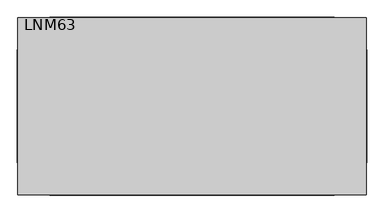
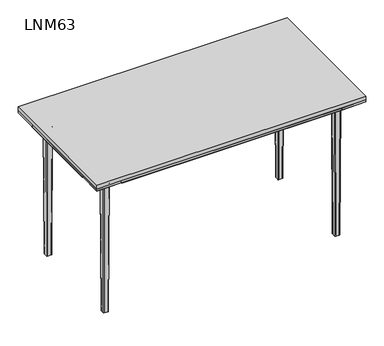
"""IFC4 building model written with IfcOpenShell, lengths in millimetres: furniture geometry, Contact Desks and Operative Twin Desks : LNM63."""

from ifc_helpers import new_model, si_unit, point, frame, origin, place, context, project, spatial, polyline, circle_curve, ellipse_curve, trimmed, outline, extrude, faceted_brep, source, transform, mapped, element, save
from ifc_brep_helpers import plane_surface, cylinder_surface, revolved_surface, extruded_surface, advanced_brep


def lnm63_42b72f23(model_context):
    return source(origin(), model_context, "Body", "SolidModel", [
        extrude(outline(polyline([(660.0, -215.0), (660.0, -335.0), (540.0, -335.0), (540.0, -215.0), (660.0, -215.0)])), frame((0.0, 0.0, 710.0), z_axis=(0.0, 0.0, 1.0), x_axis=(1.0, 0.0, 0.0)), (0.0, 0.0, 1.0), 10.0),
        extrude(outline(polyline([(660.0, 335.0), (660.0, 215.0), (540.0, 215.0), (540.0, 335.0), (660.0, 335.0)])), frame((0.0, 0.0, 710.0), z_axis=(0.0, 0.0, 1.0), x_axis=(1.0, 0.0, 0.0)), (0.0, 0.0, 1.0), 10.0),
        extrude(outline(polyline([(-540.0, 335.0), (-540.0, 215.0), (-660.0, 215.0), (-660.0, 335.0), (-540.0, 335.0)])), frame((0.0, 0.0, 710.0), z_axis=(0.0, 0.0, 1.0), x_axis=(1.0, 0.0, 0.0)), (0.0, 0.0, 1.0), 10.0),
        extrude(outline(polyline([(-660.0, 215.0), (-540.0, 215.0), (-540.0, -215.0), (-660.0, -215.0), (-660.0, 215.0)])), frame((0.0, 0.0, 710.0), z_axis=(0.0, 0.0, 1.0), x_axis=(1.0, 0.0, 0.0)), (0.0, 0.0, 1.0), 10.0),
        extrude(outline(polyline([(540.0, 215.0), (660.0, 215.0), (660.0, -215.0), (540.0, -215.0), (540.0, 215.0)])), frame((0.0, 0.0, 710.0), z_axis=(0.0, 0.0, 1.0), x_axis=(1.0, 0.0, 0.0)), (0.0, 0.0, 1.0), 10.0),
        extrude(outline(polyline([(540.0, -215.0), (540.0, -335.0), (-540.0, -335.0), (-540.0, -215.0), (540.0, -215.0)])), frame((0.0, 0.0, 710.0), z_axis=(0.0, 0.0, 1.0), x_axis=(1.0, 0.0, 0.0)), (0.0, 0.0, 1.0), 10.0),
        extrude(outline(polyline([(540.0, 335.0), (540.0, 215.0), (-540.0, 215.0), (-540.0, 335.0), (540.0, 335.0)])), frame((0.0, 0.0, 710.0), z_axis=(0.0, 0.0, 1.0), x_axis=(1.0, 0.0, 0.0)), (0.0, 0.0, 1.0), 10.0),
        extrude(outline(polyline([(710.0, 540.0), (675.0, 540.0), (675.0, 588.7129935), (710.0, 661.7129935), (710.0, 540.0)])), frame((0.0, -215.0, 0.0), z_axis=(0.0, 1.0, 0.0), x_axis=(0.0, 0.0, 1.0)), (0.0, 0.0, 1.0), 430.0),
        extrude(outline(polyline([(710.0, -540.0), (710.0, -661.7129935), (675.0, -588.7129935), (675.0, -540.0), (710.0, -540.0)])), frame((0.0, -215.0, 0.0), z_axis=(0.0, 1.0, 0.0), x_axis=(0.0, 0.0, 1.0)), (0.0, 0.0, 1.0), 430.0),
        extrude(outline(polyline([(215.0, 710.0), (336.7129935, 710.0), (263.7129935, 675.0), (215.0, 675.0), (215.0, 710.0)])), frame((-540.0, 0.0, 0.0), z_axis=(1.0, 0.0, 0.0), x_axis=(0.0, 1.0, 0.0)), (0.0, 0.0, 1.0), 1080.0),
        extrude(outline(polyline([(-215.0, 710.0), (-215.0, 675.0), (-263.7129935, 675.0), (-336.7129935, 710.0), (-215.0, 710.0)])), frame((-540.0, 0.0, 0.0), z_axis=(1.0, 0.0, 0.0), x_axis=(0.0, 1.0, 0.0)), (0.0, 0.0, 1.0), 1080.0),
        faceted_brep([(-540.0, 215.0, 710.0), (-540.0, 335.0, 710.0), (-660.0, 335.0, 710.0), (-660.0, 215.0, 710.0), (-540.0, 215.0, 675.0), (-587.0, 215.0, 675.0), (-587.0, 262.0, 675.0), (-540.0, 262.0, 675.0)], [[[0, 1, 2, 3]], [[4, 5, 6, 7]], [[1, 0, 4, 7]], [[0, 3, 5, 4]], [[6, 2, 1, 7]], [[2, 6, 5, 3]]]),
        advanced_brep(
        [(-547.0, 230.0, 675.0), (-547.0, 254.0, 675.0), (-555.0, 262.0, 675.0), (-579.0, 262.0, 675.0), (-587.0, 254.0, 675.0), (-587.0, 230.0, 675.0), (-579.0, 222.0, 675.0), (-555.0, 222.0, 675.0), (-579.0, 227.0, 665.0), (-582.0, 230.0, 665.0), (-582.0, 254.0, 665.0), (-579.0, 257.0, 665.0), (-555.0, 257.0, 665.0), (-552.0, 254.0, 665.0), (-552.0, 230.0, 665.0), (-555.0, 227.0, 665.0), (-547.0, 230.0, 672.0), (-547.0, 254.0, 672.0), (-555.0, 262.0, 672.0), (-579.0, 262.0, 672.0), (-587.0, 254.0, 672.0), (-587.0, 230.0, 672.0), (-579.0, 222.0, 672.0), (-555.0, 222.0, 672.0)],
        [
            (0, 1),
            (1, 2, circle_curve(frame((-555.0, 254.0, 675.0), z_axis=(0.0, 0.0, 1.0), x_axis=(0.0, -1.0000000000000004, 0.0)), 8.0)),
            (2, 3),
            (3, 4, circle_curve(frame((-579.0, 254.0, 675.0), z_axis=(0.0, 0.0, 1.0), x_axis=(0.0, -1.0000000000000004, 0.0)), 8.0)),
            (4, 5),
            (5, 6, circle_curve(frame((-579.0, 230.0, 675.0), z_axis=(0.0, 0.0, 1.0), x_axis=(0.0, -1.0000000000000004, 0.0)), 8.0)),
            (6, 7),
            (7, 0, circle_curve(frame((-555.0, 230.0, 675.0), z_axis=(0.0, 0.0, 1.0), x_axis=(0.0, -1.0000000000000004, 0.0)), 8.0)),
            (8, 9, circle_curve(frame((-579.0, 230.0, 665.0), z_axis=(0.0, 0.0, -1.0), x_axis=(0.0, -1.0000000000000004, 0.0)), 3.0)),
            (9, 10),
            (10, 11, circle_curve(frame((-579.0, 254.0, 665.0), z_axis=(0.0, 0.0, -1.0), x_axis=(-1.0000000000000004, 0.0, 0.0)), 3.0)),
            (11, 12),
            (12, 13, circle_curve(frame((-555.0, 254.0, 665.0), z_axis=(0.0, 0.0, -1.0), x_axis=(0.0, 1.0000000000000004, 0.0)), 3.0)),
            (13, 14),
            (14, 15, circle_curve(frame((-555.0, 230.0, 665.0), z_axis=(0.0, 0.0, -1.0), x_axis=(1.0000000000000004, 0.0, 0.0)), 3.0)),
            (15, 8),
            (0, 16),
            (16, 17),
            (17, 1),
            (17, 18, circle_curve(frame((-555.0, 254.0, 672.0), z_axis=(0.0, 0.0, 1.0), x_axis=(0.0, -1.0000000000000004, 0.0)), 8.0)),
            (18, 2),
            (18, 19),
            (19, 3),
            (19, 20, circle_curve(frame((-579.0, 254.0, 672.0), z_axis=(0.0, 0.0, 1.0), x_axis=(0.0, -1.0000000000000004, 0.0)), 8.0)),
            (20, 4),
            (20, 21),
            (21, 5),
            (21, 22, circle_curve(frame((-579.0, 230.0, 672.0), z_axis=(0.0, 0.0, 1.0), x_axis=(0.0, -1.0000000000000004, 0.0)), 8.0)),
            (22, 6),
            (22, 23),
            (23, 7),
            (23, 16, circle_curve(frame((-555.0, 230.0, 672.0), z_axis=(0.0, 0.0, 1.0), x_axis=(0.0, -1.0000000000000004, 0.0)), 8.0)),
            (21, 9, circle_curve(frame((-590.9600528, 230.0, 663.8856766), z_axis=(0.0, 1.0000000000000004, 0.0), x_axis=(-1.0000000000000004, 0.0, 0.0)), 9.0290787)),
            (8, 22, circle_curve(frame((-579.0, 218.0399472, 663.8856766), z_axis=(1.0000000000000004, 0.0, 0.0), x_axis=(0.0, -1.0000000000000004, 0.0)), 9.0290787)),
            (20, 10, circle_curve(frame((-590.9600528, 254.0, 663.8856766), z_axis=(0.0, 1.0, 0.0), x_axis=(-1.0000000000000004, 0.0, 0.0)), 9.0290787)),
            (19, 11, circle_curve(frame((-579.0, 265.9600528, 663.8856766), z_axis=(1.0000000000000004, 0.0, 0.0), x_axis=(0.0, 1.0000000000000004, 0.0)), 9.0290787)),
            (18, 12, circle_curve(frame((-555.0, 265.9600528, 663.8856766), z_axis=(1.0, 0.0, 0.0), x_axis=(0.0, 1.0000000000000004, 0.0)), 9.0290787)),
            (17, 13, circle_curve(frame((-543.0399472, 254.0, 663.8856766), z_axis=(0.0, -1.0000000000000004, 0.0), x_axis=(1.0000000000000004, 0.0, 0.0)), 9.0290787)),
            (16, 14, circle_curve(frame((-543.0399472, 230.0, 663.8856766), z_axis=(0.0, -1.0, 0.0), x_axis=(1.0000000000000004, 0.0, 0.0)), 9.0290787)),
            (23, 15, circle_curve(frame((-555.0, 218.0399472, 663.8856766), z_axis=(-1.0000000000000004, 0.0, 0.0), x_axis=(0.0, -1.0000000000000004, 0.0)), 9.0290787)),
        ],
        [
            plane_surface(frame((-547.0, 915.663284, 675.0), z_axis=(0.0, 0.0, 1.0), x_axis=(0.0, 1.0, 0.0))),
            plane_surface(frame((-547.0, 915.663284, 665.0), z_axis=(0.0, 0.0, -1.0), x_axis=(0.0, -1.0, 0.0))),
            plane_surface(frame((-547.0, 230.0, 675.0), z_axis=(1.0, 0.0, 0.0), x_axis=(0.0, 0.0, -1.0))),
            cylinder_surface(frame((-555.0, 254.0, 665.0), z_axis=(0.0, 0.0, 1.0), x_axis=(0.0, -1.0000000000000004, 0.0)), 8.0),
            plane_surface(frame((-555.0, 262.0, 675.0), z_axis=(0.0, 1.0, 0.0), x_axis=(0.0, 0.0, -1.0))),
            cylinder_surface(frame((-579.0, 254.0, 665.0), z_axis=(0.0, 0.0, 1.0), x_axis=(0.0, -1.0000000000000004, 0.0)), 8.0),
            plane_surface(frame((-587.0, 254.0, 675.0), z_axis=(-1.0, 0.0, 0.0), x_axis=(0.0, 0.0, -1.0))),
            cylinder_surface(frame((-579.0, 230.0, 665.0), z_axis=(0.0, 0.0, 1.0), x_axis=(0.0, -1.0000000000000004, 0.0)), 8.0),
            plane_surface(frame((-579.0, 222.0, 675.0), z_axis=(0.0, -1.0, 0.0), x_axis=(0.0, 0.0, -1.0))),
            cylinder_surface(frame((-555.0, 230.0, 665.0), z_axis=(0.0, 0.0, 1.0), x_axis=(0.0, -1.0000000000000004, 0.0)), 8.0),
            revolved_surface(trimmed(ellipse_curve(frame((-579.0, 218.0399472, 663.8856766), z_axis=(-1.0000000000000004, 0.0, 0.0), x_axis=(0.0, -1.0000000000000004, 0.0)), 9.0290787, 9.0290787), [point((-579.0, 222.0, 672.0))], [point((-579.0, 227.0, 665.0))], True, "CARTESIAN"), (-579.0, 230.0, 0.0), (0.0, 0.0, -1.0)),
            revolved_surface(polyline([(-599.9891315, 230.0, 663.8856766), (-599.9891315, 254.00000000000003, 663.8856766)]), (-590.9600528, 230.0, 663.8856766), (0.0, -1.0000000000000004, 0.0)),
            revolved_surface(trimmed(ellipse_curve(frame((-590.9600528, 254.0, 663.8856766), z_axis=(0.0, 1.0000000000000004, 0.0), x_axis=(-1.0000000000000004, 0.0, 0.0)), 9.0290787, 9.0290787), [point((-587.0, 254.0, 672.0))], [point((-582.0, 254.0, 665.0))], True, "CARTESIAN"), (-579.0, 254.0, 0.0), (0.0, 0.0, -1.0)),
            revolved_surface(polyline([(-579.0, 274.98913150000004, 663.8856766), (-555.0, 274.98913150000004, 663.8856766)]), (-579.0, 265.9600528, 663.8856766), (-1.0000000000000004, 0.0, 0.0)),
            revolved_surface(trimmed(ellipse_curve(frame((-555.0, 265.9600528, 663.8856766), z_axis=(1.0000000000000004, 0.0, 0.0), x_axis=(0.0, 1.0000000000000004, 0.0)), 9.0290787, 9.0290787), [point((-555.0, 262.0, 672.0))], [point((-555.0, 257.0, 665.0))], True, "CARTESIAN"), (-555.0, 254.0, 0.0), (0.0, 0.0, -1.0)),
            revolved_surface(polyline([(-534.0108685, 254.0, 663.8856766), (-534.0108685, 229.99999999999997, 663.8856766)]), (-543.0399472, 254.0, 663.8856766), (0.0, 1.0000000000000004, 0.0)),
            revolved_surface(trimmed(ellipse_curve(frame((-543.0399472, 230.0, 663.8856766), z_axis=(0.0, -1.0000000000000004, 0.0), x_axis=(1.0000000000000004, 0.0, 0.0)), 9.0290787, 9.0290787), [point((-547.0, 230.0, 672.0))], [point((-552.0, 230.0, 665.0))], True, "CARTESIAN"), (-555.0, 230.0, 0.0), (0.0, 0.0, -1.0)),
            revolved_surface(polyline([(-555.0, 209.0108685, 663.8856766), (-579.0, 209.0108685, 663.8856766)]), (-555.0, 218.0399472, 663.8856766), (1.0000000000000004, 0.0, 0.0)),
        ],
        [
            (0, [[1, 2, 3, 4, 5, 6, 7, 8]]),
            (1, [[9, 10, 11, 12, 13, 14, 15, 16]]),
            (2, [[-1, 17, 18, 19]]),
            (3, [[-2, -19, 20, 21]]),
            (4, [[-3, -21, 22, 23]]),
            (5, [[-4, -23, 24, 25]]),
            (6, [[-5, -25, 26, 27]]),
            (7, [[-6, -27, 28, 29]]),
            (8, [[-7, -29, 30, 31]]),
            (9, [[-8, -31, 32, -17]]),
            (10, [[33, -9, 34, -28]]),
            (11, [[-33, -26, 35, -10]]),
            (12, [[-35, -24, 36, -11]]),
            (13, [[-36, -22, 37, -12]]),
            (14, [[-37, -20, 38, -13]]),
            (15, [[-38, -18, 39, -14]]),
            (16, [[-39, -32, 40, -15]]),
            (17, [[-34, -16, -40, -30]]),
        ],
    ),
        advanced_brep(
        [(-579.0, 257.0, 665.0), (-582.0, 254.0, 665.0), (-582.0, 230.0, 665.0), (-579.0, 227.0, 665.0), (-555.0, 227.0, 665.0), (-552.0, 230.0, 665.0), (-552.0, 254.0, 665.0), (-555.0, 257.0, 665.0), (-576.0, 254.0, 0.0), (-558.0, 254.0, 0.0), (-555.0, 251.0, 0.0), (-555.0, 233.0, 0.0), (-558.0, 230.0, 0.0), (-576.0, 230.0, 0.0), (-579.0, 233.0, 0.0), (-579.0, 251.0, 0.0)],
        [
            (0, 1, circle_curve(frame((-579.0, 254.0, 665.0), z_axis=(0.0, 0.0, 1.0), x_axis=(0.0, -1.0, 0.0)), 3.0)),
            (1, 2),
            (2, 3, circle_curve(frame((-579.0, 230.0, 665.0), z_axis=(0.0, 0.0, 1.0), x_axis=(0.0, -1.0, 0.0)), 3.0)),
            (3, 4),
            (4, 5, circle_curve(frame((-555.0, 230.0, 665.0), z_axis=(0.0, 0.0, 1.0), x_axis=(0.0, -1.0, 0.0)), 3.0)),
            (5, 6),
            (6, 7, circle_curve(frame((-555.0, 254.0, 665.0), z_axis=(0.0, 0.0, 1.0), x_axis=(0.0, -1.0, 0.0)), 3.0)),
            (7, 0),
            (8, 9),
            (9, 10, circle_curve(frame((-558.0, 251.0, 0.0), z_axis=(0.0, 0.0, -1.0), x_axis=(0.0, -1.0, 0.0)), 3.0)),
            (10, 11),
            (11, 12, circle_curve(frame((-558.0, 233.0, 0.0), z_axis=(0.0, 0.0, -1.0), x_axis=(0.0, -1.0, 0.0)), 3.0)),
            (12, 13),
            (13, 14, circle_curve(frame((-576.0, 233.0, 0.0), z_axis=(0.0, 0.0, -1.0), x_axis=(0.0, -1.0, 0.0)), 3.0)),
            (14, 15),
            (15, 8, circle_curve(frame((-576.0, 251.0, 0.0), z_axis=(0.0, 0.0, -1.0), x_axis=(0.0, -1.0, 0.0)), 3.0)),
            (15, 1),
            (0, 8),
            (14, 2),
            (13, 3),
            (12, 4),
            (11, 5),
            (10, 6),
            (9, 7),
        ],
        [
            plane_surface(frame((-567.0, 242.0, 665.0), z_axis=(0.0, 0.0, 1.0), x_axis=(0.0, 1.0, 0.0))),
            plane_surface(frame((-567.0, 242.0, 0.0), z_axis=(0.0, 0.0, -1.0), x_axis=(0.0, 1.0, 0.0))),
            extruded_surface(trimmed(circle_curve(frame((-576.0, 251.0, 0.0), z_axis=(0.0, 0.0, 1.0), x_axis=(0.0, -1.0, 0.0)), 3.0), [point((-576.0, 254.0, 0.0))], [point((-579.0, 251.0, 0.0))], True, "CARTESIAN"), (-3.0, 3.0, 665.0), 665.0135336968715),
            plane_surface(frame((-579.0, 242.0, 0.0), z_axis=(-0.9999898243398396, 0.0, -0.004511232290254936), x_axis=(0.0, -1.0, 0.0))),
            extruded_surface(trimmed(circle_curve(frame((-576.0, 233.0, 0.0), z_axis=(0.0, 0.0, 1.0), x_axis=(0.0, -1.0, 0.0)), 3.0), [point((-579.0, 233.0, 0.0))], [point((-576.0, 230.0, 0.0))], True, "CARTESIAN"), (-3.0, -3.0, 665.0), 665.0135336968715),
            plane_surface(frame((-567.0, 230.0, 0.0), z_axis=(0.0, -0.9999898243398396, -0.004511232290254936), x_axis=(1.0, 0.0, 0.0))),
            extruded_surface(trimmed(circle_curve(frame((-558.0, 233.0, 0.0), z_axis=(0.0, 0.0, 1.0), x_axis=(0.0, -1.0, 0.0)), 3.0), [point((-558.0, 230.0, 0.0))], [point((-555.0, 233.0, 0.0))], True, "CARTESIAN"), (3.0, -3.0, 665.0), 665.0135336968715),
            plane_surface(frame((-555.0, 242.0, 0.0), z_axis=(0.9999898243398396, 0.0, -0.004511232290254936), x_axis=(0.0, 1.0, 0.0))),
            extruded_surface(trimmed(circle_curve(frame((-558.0, 251.0, 0.0), z_axis=(0.0, 0.0, 1.0), x_axis=(0.0, -1.0, 0.0)), 3.0), [point((-555.0, 251.0, 0.0))], [point((-558.0, 254.0, 0.0))], True, "CARTESIAN"), (3.0, 3.0, 665.0), 665.0135336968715),
            plane_surface(frame((-567.0, 254.0, 0.0), z_axis=(0.0, 0.9999898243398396, -0.004511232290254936), x_axis=(-1.0, 0.0, 0.0))),
        ],
        [
            (0, [[1, 2, 3, 4, 5, 6, 7, 8]]),
            (1, [[9, 10, 11, 12, 13, 14, 15, 16]]),
            (2, [[-16, 17, -1, 18]]),
            (3, [[-15, 19, -2, -17]]),
            (4, [[-14, 20, -3, -19]]),
            (5, [[-13, 21, -4, -20]]),
            (6, [[-12, 22, -5, -21]]),
            (7, [[-11, 23, -6, -22]]),
            (8, [[-10, 24, -7, -23]]),
            (9, [[-9, -18, -8, -24]]),
        ],
    ),
        faceted_brep([(540.0, -215.0, 710.0), (540.0, -335.0, 710.0), (660.0, -335.0, 710.0), (660.0, -215.0, 710.0), (540.0, -215.0, 675.0), (587.0, -215.0, 675.0), (587.0, -262.0, 675.0), (540.0, -262.0, 675.0)], [[[0, 1, 2, 3]], [[4, 5, 6, 7]], [[1, 0, 4, 7]], [[0, 3, 5, 4]], [[6, 2, 1, 7]], [[2, 6, 5, 3]]]),
        advanced_brep(
        [(547.0, -230.0, 675.0), (547.0, -254.0, 675.0), (555.0, -262.0, 675.0), (579.0, -262.0, 675.0), (587.0, -254.0, 675.0), (587.0, -230.0, 675.0), (579.0, -222.0, 675.0), (555.0, -222.0, 675.0), (579.0, -227.0, 665.0), (582.0, -230.0, 665.0), (582.0, -254.0, 665.0), (579.0, -257.0, 665.0), (555.0, -257.0, 665.0), (552.0, -254.0, 665.0), (552.0, -230.0, 665.0), (555.0, -227.0, 665.0), (547.0, -230.0, 672.0), (547.0, -254.0, 672.0), (555.0, -262.0, 672.0), (579.0, -262.0, 672.0), (587.0, -254.0, 672.0), (587.0, -230.0, 672.0), (579.0, -222.0, 672.0), (555.0, -222.0, 672.0)],
        [
            (0, 1),
            (1, 2, circle_curve(frame((555.0, -254.0, 675.0), z_axis=(0.0, 0.0, 1.0), x_axis=(0.0, 1.0000000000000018, 0.0)), 8.0)),
            (2, 3),
            (3, 4, circle_curve(frame((579.0, -254.0, 675.0), z_axis=(0.0, 0.0, 1.0), x_axis=(0.0, 1.0000000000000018, 0.0)), 8.0)),
            (4, 5),
            (5, 6, circle_curve(frame((579.0, -230.0, 675.0), z_axis=(0.0, 0.0, 1.0), x_axis=(0.0, 1.0000000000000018, 0.0)), 8.0)),
            (6, 7),
            (7, 0, circle_curve(frame((555.0, -230.0, 675.0), z_axis=(0.0, 0.0, 1.0), x_axis=(0.0, 1.0000000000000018, 0.0)), 8.0)),
            (8, 9, circle_curve(frame((579.0, -230.0, 665.0), z_axis=(0.0, 0.0, -1.0), x_axis=(0.0, 1.0000000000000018, 0.0)), 3.0)),
            (9, 10),
            (10, 11, circle_curve(frame((579.0, -254.0, 665.0), z_axis=(0.0, 0.0, -1.0), x_axis=(1.0000000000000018, 0.0, 0.0)), 3.0)),
            (11, 12),
            (12, 13, circle_curve(frame((555.0, -254.0, 665.0), z_axis=(0.0, 0.0, -1.0), x_axis=(0.0, -1.0000000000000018, 0.0)), 3.0)),
            (13, 14),
            (14, 15, circle_curve(frame((555.0, -230.0, 665.0), z_axis=(0.0, 0.0, -1.0), x_axis=(-1.0000000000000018, 0.0, 0.0)), 3.0)),
            (15, 8),
            (0, 16),
            (16, 17),
            (17, 1),
            (17, 18, circle_curve(frame((555.0, -254.0, 672.0), z_axis=(0.0, 0.0, 1.0), x_axis=(0.0, 1.0000000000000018, 0.0)), 8.0)),
            (18, 2),
            (18, 19),
            (19, 3),
            (19, 20, circle_curve(frame((579.0, -254.0, 672.0), z_axis=(0.0, 0.0, 1.0), x_axis=(0.0, 1.0000000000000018, 0.0)), 8.0)),
            (20, 4),
            (20, 21),
            (21, 5),
            (21, 22, circle_curve(frame((579.0, -230.0, 672.0), z_axis=(0.0, 0.0, 1.0), x_axis=(0.0, 1.0000000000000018, 0.0)), 8.0)),
            (22, 6),
            (22, 23),
            (23, 7),
            (23, 16, circle_curve(frame((555.0, -230.0, 672.0), z_axis=(0.0, 0.0, 1.0), x_axis=(0.0, 1.0000000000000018, 0.0)), 8.0)),
            (21, 9, circle_curve(frame((590.9600528, -230.0, 663.8856766), z_axis=(0.0, -1.0000000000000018, 0.0), x_axis=(1.0000000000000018, 0.0, 0.0)), 9.0290787)),
            (8, 22, circle_curve(frame((579.0, -218.0399472, 663.8856766), z_axis=(-1.0000000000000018, 0.0, 0.0), x_axis=(0.0, 1.0000000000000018, 0.0)), 9.0290787)),
            (20, 10, circle_curve(frame((590.9600528, -254.0, 663.8856766), z_axis=(0.0, -1.0, 0.0), x_axis=(1.0000000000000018, 0.0, 0.0)), 9.0290787)),
            (19, 11, circle_curve(frame((579.0, -265.9600528, 663.8856766), z_axis=(-1.0000000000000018, 0.0, 0.0), x_axis=(0.0, -1.0000000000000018, 0.0)), 9.0290787)),
            (18, 12, circle_curve(frame((555.0, -265.9600528, 663.8856766), z_axis=(-1.0, 0.0, 0.0), x_axis=(0.0, -1.0000000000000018, 0.0)), 9.0290787)),
            (17, 13, circle_curve(frame((543.0399472, -254.0, 663.8856766), z_axis=(0.0, 1.0000000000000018, 0.0), x_axis=(-1.0000000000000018, 0.0, 0.0)), 9.0290787)),
            (16, 14, circle_curve(frame((543.0399472, -230.0, 663.8856766), z_axis=(0.0, 1.0, 0.0), x_axis=(-1.0000000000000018, 0.0, 0.0)), 9.0290787)),
            (23, 15, circle_curve(frame((555.0, -218.0399472, 663.8856766), z_axis=(1.0000000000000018, 0.0, 0.0), x_axis=(0.0, 1.0000000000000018, 0.0)), 9.0290787)),
        ],
        [
            plane_surface(frame((547.0, -915.663284, 675.0), z_axis=(0.0, 0.0, 1.0), x_axis=(0.0, -1.0, 0.0))),
            plane_surface(frame((547.0, -915.663284, 665.0), z_axis=(0.0, 0.0, -1.0), x_axis=(0.0, 1.0, 0.0))),
            plane_surface(frame((547.0, -230.0, 675.0), z_axis=(-1.0, 0.0, 0.0), x_axis=(0.0, 0.0, -1.0))),
            cylinder_surface(frame((555.0, -254.0, 665.0), z_axis=(0.0, 0.0, 1.0), x_axis=(0.0, 1.0000000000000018, 0.0)), 8.0),
            plane_surface(frame((555.0, -262.0, 675.0), z_axis=(0.0, -1.0, 0.0), x_axis=(0.0, 0.0, -1.0))),
            cylinder_surface(frame((579.0, -254.0, 665.0), z_axis=(0.0, 0.0, 1.0), x_axis=(0.0, 1.0000000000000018, 0.0)), 8.0),
            plane_surface(frame((587.0, -254.0, 675.0), z_axis=(1.0, 0.0, 0.0), x_axis=(0.0, 0.0, -1.0))),
            cylinder_surface(frame((579.0, -230.0, 665.0), z_axis=(0.0, 0.0, 1.0), x_axis=(0.0, 1.0000000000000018, 0.0)), 8.0),
            plane_surface(frame((579.0, -222.0, 675.0), z_axis=(0.0, 1.0, 0.0), x_axis=(0.0, 0.0, -1.0))),
            cylinder_surface(frame((555.0, -230.0, 665.0), z_axis=(0.0, 0.0, 1.0), x_axis=(0.0, 1.0000000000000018, 0.0)), 8.0),
            revolved_surface(trimmed(ellipse_curve(frame((579.0, -218.0399472, 663.8856766), z_axis=(1.0000000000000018, 0.0, 0.0), x_axis=(0.0, 1.0000000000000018, 0.0)), 9.0290787, 9.0290787), [point((579.0, -222.0, 672.0))], [point((579.0, -227.0, 665.0))], True, "CARTESIAN"), (579.0, -230.0, 0.0), (0.0, 0.0, -1.0)),
            revolved_surface(polyline([(599.9891315, -230.0, 663.8856766), (599.9891315, -254.00000000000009, 663.8856766)]), (590.9600528, -230.0, 663.8856766), (0.0, 1.0000000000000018, 0.0)),
            revolved_surface(trimmed(ellipse_curve(frame((590.9600528, -254.0, 663.8856766), z_axis=(0.0, -1.0000000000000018, 0.0), x_axis=(1.0000000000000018, 0.0, 0.0)), 9.0290787, 9.0290787), [point((587.0, -254.0, 672.0))], [point((582.0, -254.0, 665.0))], True, "CARTESIAN"), (579.0, -254.0, 0.0), (0.0, 0.0, -1.0)),
            revolved_surface(polyline([(579.0, -274.98913150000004, 663.8856766), (554.9999999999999, -274.98913150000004, 663.8856766)]), (579.0, -265.9600528, 663.8856766), (1.0000000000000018, 0.0, 0.0)),
            revolved_surface(trimmed(ellipse_curve(frame((555.0, -265.9600528, 663.8856766), z_axis=(-1.0000000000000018, 0.0, 0.0), x_axis=(0.0, -1.0000000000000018, 0.0)), 9.0290787, 9.0290787), [point((555.0, -262.0, 672.0))], [point((555.0, -257.0, 665.0))], True, "CARTESIAN"), (555.0, -254.0, 0.0), (0.0, 0.0, -1.0)),
            revolved_surface(polyline([(534.0108685, -254.0, 663.8856766), (534.0108685, -229.99999999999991, 663.8856766)]), (543.0399472, -254.0, 663.8856766), (0.0, -1.0000000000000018, 0.0)),
            revolved_surface(trimmed(ellipse_curve(frame((543.0399472, -230.0, 663.8856766), z_axis=(0.0, 1.0000000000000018, 0.0), x_axis=(-1.0000000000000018, 0.0, 0.0)), 9.0290787, 9.0290787), [point((547.0, -230.0, 672.0))], [point((552.0, -230.0, 665.0))], True, "CARTESIAN"), (555.0, -230.0, 0.0), (0.0, 0.0, -1.0)),
            revolved_surface(polyline([(555.0, -209.0108685, 663.8856766), (579.0000000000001, -209.0108685, 663.8856766)]), (555.0, -218.0399472, 663.8856766), (-1.0000000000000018, 0.0, 0.0)),
        ],
        [
            (0, [[1, 2, 3, 4, 5, 6, 7, 8]]),
            (1, [[9, 10, 11, 12, 13, 14, 15, 16]]),
            (2, [[-1, 17, 18, 19]]),
            (3, [[-2, -19, 20, 21]]),
            (4, [[-3, -21, 22, 23]]),
            (5, [[-4, -23, 24, 25]]),
            (6, [[-5, -25, 26, 27]]),
            (7, [[-6, -27, 28, 29]]),
            (8, [[-7, -29, 30, 31]]),
            (9, [[-8, -31, 32, -17]]),
            (10, [[33, -9, 34, -28]]),
            (11, [[-33, -26, 35, -10]]),
            (12, [[-35, -24, 36, -11]]),
            (13, [[-36, -22, 37, -12]]),
            (14, [[-37, -20, 38, -13]]),
            (15, [[-38, -18, 39, -14]]),
            (16, [[-39, -32, 40, -15]]),
            (17, [[-34, -16, -40, -30]]),
        ],
    ),
        advanced_brep(
        [(579.0, -257.0, 665.0), (582.0, -254.0, 665.0), (582.0, -230.0, 665.0), (579.0, -227.0, 665.0), (555.0, -227.0, 665.0), (552.0, -230.0, 665.0), (552.0, -254.0, 665.0), (555.0, -257.0, 665.0), (576.0, -254.0, 0.0), (558.0, -254.0, 0.0), (555.0, -251.0, 0.0), (555.0, -233.0, 0.0), (558.0, -230.0, 0.0), (576.0, -230.0, 0.0), (579.0, -233.0, 0.0), (579.0, -251.0, 0.0)],
        [
            (0, 1, circle_curve(frame((579.0, -254.0, 665.0), z_axis=(0.0, 0.0, 1.0), x_axis=(0.0, 1.0, 0.0)), 3.0)),
            (1, 2),
            (2, 3, circle_curve(frame((579.0, -230.0, 665.0), z_axis=(0.0, 0.0, 1.0), x_axis=(0.0, 1.0, 0.0)), 3.0)),
            (3, 4),
            (4, 5, circle_curve(frame((555.0, -230.0, 665.0), z_axis=(0.0, 0.0, 1.0), x_axis=(0.0, 1.0, 0.0)), 3.0)),
            (5, 6),
            (6, 7, circle_curve(frame((555.0, -254.0, 665.0), z_axis=(0.0, 0.0, 1.0), x_axis=(0.0, 1.0, 0.0)), 3.0)),
            (7, 0),
            (8, 9),
            (9, 10, circle_curve(frame((558.0, -251.0, 0.0), z_axis=(0.0, 0.0, -1.0), x_axis=(0.0, 1.0, 0.0)), 3.0)),
            (10, 11),
            (11, 12, circle_curve(frame((558.0, -233.0, 0.0), z_axis=(0.0, 0.0, -1.0), x_axis=(0.0, 1.0, 0.0)), 3.0)),
            (12, 13),
            (13, 14, circle_curve(frame((576.0, -233.0, 0.0), z_axis=(0.0, 0.0, -1.0), x_axis=(0.0, 1.0, 0.0)), 3.0)),
            (14, 15),
            (15, 8, circle_curve(frame((576.0, -251.0, 0.0), z_axis=(0.0, 0.0, -1.0), x_axis=(0.0, 1.0, 0.0)), 3.0)),
            (15, 1),
            (0, 8),
            (14, 2),
            (13, 3),
            (12, 4),
            (11, 5),
            (10, 6),
            (9, 7),
        ],
        [
            plane_surface(frame((567.0, -242.0, 665.0), z_axis=(0.0, 0.0, 1.0), x_axis=(0.0, -1.0, 0.0))),
            plane_surface(frame((567.0, -242.0, 0.0), z_axis=(0.0, 0.0, -1.0), x_axis=(0.0, -1.0, 0.0))),
            extruded_surface(trimmed(circle_curve(frame((576.0, -251.0, 0.0), z_axis=(0.0, 0.0, 1.0), x_axis=(0.0, 1.0, 0.0)), 3.0), [point((576.0, -254.0, 0.0))], [point((579.0, -251.0, 0.0))], True, "CARTESIAN"), (3.0, -3.0, 665.0), 665.0135336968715),
            plane_surface(frame((579.0, -242.0, 0.0), z_axis=(0.9999898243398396, 0.0, -0.004511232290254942), x_axis=(0.0, 1.0, 0.0))),
            extruded_surface(trimmed(circle_curve(frame((576.0, -233.0, 0.0), z_axis=(0.0, 0.0, 1.0), x_axis=(0.0, 1.0, 0.0)), 3.0), [point((579.0, -233.0, 0.0))], [point((576.0, -230.0, 0.0))], True, "CARTESIAN"), (3.0, 3.0, 665.0), 665.0135336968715),
            plane_surface(frame((567.0, -230.0, 0.0), z_axis=(0.0, 0.9999898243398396, -0.004511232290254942), x_axis=(-1.0, 0.0, 0.0))),
            extruded_surface(trimmed(circle_curve(frame((558.0, -233.0, 0.0), z_axis=(0.0, 0.0, 1.0), x_axis=(0.0, 1.0, 0.0)), 3.0), [point((558.0, -230.0, 0.0))], [point((555.0, -233.0, 0.0))], True, "CARTESIAN"), (-3.0, 3.0, 665.0), 665.0135336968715),
            plane_surface(frame((555.0, -242.0, 0.0), z_axis=(-0.9999898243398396, 0.0, -0.004511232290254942), x_axis=(0.0, -1.0, 0.0))),
            extruded_surface(trimmed(circle_curve(frame((558.0, -251.0, 0.0), z_axis=(0.0, 0.0, 1.0), x_axis=(0.0, 1.0, 0.0)), 3.0), [point((555.0, -251.0, 0.0))], [point((558.0, -254.0, 0.0))], True, "CARTESIAN"), (-3.0, -3.0, 665.0), 665.0135336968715),
            plane_surface(frame((567.0, -254.0, 0.0), z_axis=(0.0, -0.9999898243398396, -0.004511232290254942), x_axis=(1.0, 0.0, 0.0))),
        ],
        [
            (0, [[1, 2, 3, 4, 5, 6, 7, 8]]),
            (1, [[9, 10, 11, 12, 13, 14, 15, 16]]),
            (2, [[-16, 17, -1, 18]]),
            (3, [[-15, 19, -2, -17]]),
            (4, [[-14, 20, -3, -19]]),
            (5, [[-13, 21, -4, -20]]),
            (6, [[-12, 22, -5, -21]]),
            (7, [[-11, 23, -6, -22]]),
            (8, [[-10, 24, -7, -23]]),
            (9, [[-9, -18, -8, -24]]),
        ],
    ),
        faceted_brep([(540.0, 215.0, 710.0), (660.0, 215.0, 710.0), (660.0, 335.0, 710.0), (540.0, 335.0, 710.0), (540.0, 215.0, 675.0), (540.0, 262.0, 675.0), (587.0, 262.0, 675.0), (587.0, 215.0, 675.0)], [[[0, 1, 2, 3]], [[4, 5, 6, 7]], [[1, 0, 4, 7]], [[0, 3, 5, 4]], [[6, 2, 1, 7]], [[2, 6, 5, 3]]]),
        advanced_brep(
        [(555.0, 222.0, 675.0), (579.0, 222.0, 675.0), (587.0, 230.0, 675.0), (587.0, 254.0, 675.0), (579.0, 262.0, 675.0), (555.0, 262.0, 675.0), (547.0, 254.0, 675.0), (547.0, 230.0, 675.0), (552.0, 254.0, 665.0), (555.0, 257.0, 665.0), (579.0, 257.0, 665.0), (582.0, 254.0, 665.0), (582.0, 230.0, 665.0), (579.0, 227.0, 665.0), (555.0, 227.0, 665.0), (552.0, 230.0, 665.0), (555.0, 222.0, 672.0), (579.0, 222.0, 672.0), (587.0, 230.0, 672.0), (587.0, 254.0, 672.0), (579.0, 262.0, 672.0), (555.0, 262.0, 672.0), (547.0, 254.0, 672.0), (547.0, 230.0, 672.0)],
        [
            (0, 1),
            (1, 2, circle_curve(frame((579.0, 230.0, 675.0), z_axis=(0.0, 0.0, 1.0), x_axis=(-1.0000000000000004, 0.0, 0.0)), 8.0)),
            (2, 3),
            (3, 4, circle_curve(frame((579.0, 254.0, 675.0), z_axis=(0.0, 0.0, 1.0), x_axis=(-1.0000000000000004, 0.0, 0.0)), 8.0)),
            (4, 5),
            (5, 6, circle_curve(frame((555.0, 254.0, 675.0), z_axis=(0.0, 0.0, 1.0), x_axis=(-1.0000000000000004, 0.0, 0.0)), 8.0)),
            (6, 7),
            (7, 0, circle_curve(frame((555.0, 230.0, 675.0), z_axis=(0.0, 0.0, 1.0), x_axis=(-1.0000000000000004, 0.0, 0.0)), 8.0)),
            (8, 9, circle_curve(frame((555.0, 254.0, 665.0), z_axis=(0.0, 0.0, -1.0), x_axis=(-1.0000000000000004, 0.0, 0.0)), 3.0)),
            (9, 10),
            (10, 11, circle_curve(frame((579.0, 254.0, 665.0), z_axis=(0.0, 0.0, -1.0), x_axis=(0.0, 1.0000000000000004, 0.0)), 3.0)),
            (11, 12),
            (12, 13, circle_curve(frame((579.0, 230.0, 665.0), z_axis=(0.0, 0.0, -1.0), x_axis=(1.0000000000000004, 0.0, 0.0)), 3.0)),
            (13, 14),
            (14, 15, circle_curve(frame((555.0, 230.0, 665.0), z_axis=(0.0, 0.0, -1.0), x_axis=(0.0, -1.0000000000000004, 0.0)), 3.0)),
            (15, 8),
            (0, 16),
            (16, 17),
            (17, 1),
            (17, 18, circle_curve(frame((579.0, 230.0, 672.0), z_axis=(0.0, 0.0, 1.0), x_axis=(-1.0000000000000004, 0.0, 0.0)), 8.0)),
            (18, 2),
            (18, 19),
            (19, 3),
            (19, 20, circle_curve(frame((579.0, 254.0, 672.0), z_axis=(0.0, 0.0, 1.0), x_axis=(-1.0000000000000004, 0.0, 0.0)), 8.0)),
            (20, 4),
            (20, 21),
            (21, 5),
            (21, 22, circle_curve(frame((555.0, 254.0, 672.0), z_axis=(0.0, 0.0, 1.0), x_axis=(-1.0000000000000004, 0.0, 0.0)), 8.0)),
            (22, 6),
            (22, 23),
            (23, 7),
            (23, 16, circle_curve(frame((555.0, 230.0, 672.0), z_axis=(0.0, 0.0, 1.0), x_axis=(-1.0000000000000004, 0.0, 0.0)), 8.0)),
            (21, 9, circle_curve(frame((555.0, 265.9600528, 663.8856766), z_axis=(1.0000000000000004, 0.0, 0.0), x_axis=(0.0, 1.0000000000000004, 0.0)), 9.0290787)),
            (8, 22, circle_curve(frame((543.0399472, 254.0, 663.8856766), z_axis=(0.0, -1.0000000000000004, 0.0), x_axis=(-1.0000000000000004, 0.0, 0.0)), 9.0290787)),
            (20, 10, circle_curve(frame((579.0, 265.9600528, 663.8856766), z_axis=(1.0, 0.0, 0.0), x_axis=(0.0, 1.0000000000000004, 0.0)), 9.0290787)),
            (19, 11, circle_curve(frame((590.9600528, 254.0, 663.8856766), z_axis=(0.0, -1.0000000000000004, 0.0), x_axis=(1.0000000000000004, 0.0, 0.0)), 9.0290787)),
            (18, 12, circle_curve(frame((590.9600528, 230.0, 663.8856766), z_axis=(0.0, -1.0, 0.0), x_axis=(1.0000000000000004, 0.0, 0.0)), 9.0290787)),
            (17, 13, circle_curve(frame((579.0, 218.0399472, 663.8856766), z_axis=(-1.0000000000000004, 0.0, 0.0), x_axis=(0.0, -1.0000000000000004, 0.0)), 9.0290787)),
            (16, 14, circle_curve(frame((555.0, 218.0399472, 663.8856766), z_axis=(-1.0, 0.0, 0.0), x_axis=(0.0, -1.0000000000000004, 0.0)), 9.0290787)),
            (23, 15, circle_curve(frame((543.0399472, 230.0, 663.8856766), z_axis=(0.0, 1.0000000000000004, 0.0), x_axis=(-1.0000000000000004, 0.0, 0.0)), 9.0290787)),
        ],
        [
            plane_surface(frame((1240.663284, 222.0, 675.0), z_axis=(0.0, 0.0, 1.0), x_axis=(1.0, 0.0, 0.0))),
            plane_surface(frame((1240.663284, 222.0, 665.0), z_axis=(0.0, 0.0, -1.0), x_axis=(-1.0, 0.0, 0.0))),
            plane_surface(frame((555.0, 222.0, 675.0), z_axis=(0.0, -1.0, 0.0), x_axis=(0.0, 0.0, -1.0))),
            cylinder_surface(frame((579.0, 230.0, 665.0), z_axis=(0.0, 0.0, 1.0), x_axis=(-1.0000000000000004, 0.0, 0.0)), 8.0),
            plane_surface(frame((587.0, 230.0, 675.0), z_axis=(1.0, 0.0, 0.0), x_axis=(0.0, 0.0, -1.0))),
            cylinder_surface(frame((579.0, 254.0, 665.0), z_axis=(0.0, 0.0, 1.0), x_axis=(-1.0000000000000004, 0.0, 0.0)), 8.0),
            plane_surface(frame((579.0, 262.0, 675.0), z_axis=(0.0, 1.0, 0.0), x_axis=(0.0, 0.0, -1.0))),
            cylinder_surface(frame((555.0, 254.0, 665.0), z_axis=(0.0, 0.0, 1.0), x_axis=(-1.0000000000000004, 0.0, 0.0)), 8.0),
            plane_surface(frame((547.0, 254.0, 675.0), z_axis=(-1.0, 0.0, 0.0), x_axis=(0.0, 0.0, -1.0))),
            cylinder_surface(frame((555.0, 230.0, 665.0), z_axis=(0.0, 0.0, 1.0), x_axis=(-1.0000000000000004, 0.0, 0.0)), 8.0),
            revolved_surface(trimmed(ellipse_curve(frame((543.0399472, 254.0, 663.8856766), z_axis=(0.0, 1.0000000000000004, 0.0), x_axis=(-1.0000000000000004, 0.0, 0.0)), 9.0290787, 9.0290787), [point((547.0, 254.0, 672.0))], [point((552.0, 254.0, 665.0))], True, "CARTESIAN"), (555.0, 254.0, 0.0), (0.0, 0.0, -1.0)),
            revolved_surface(polyline([(555.0, 274.98913150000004, 663.8856766), (579.0, 274.98913150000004, 663.8856766)]), (555.0, 265.9600528, 663.8856766), (-1.0000000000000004, 0.0, 0.0)),
            revolved_surface(trimmed(ellipse_curve(frame((579.0, 265.9600528, 663.8856766), z_axis=(1.0000000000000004, 0.0, 0.0), x_axis=(0.0, 1.0000000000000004, 0.0)), 9.0290787, 9.0290787), [point((579.0, 262.0, 672.0))], [point((579.0, 257.0, 665.0))], True, "CARTESIAN"), (579.0, 254.0, 0.0), (0.0, 0.0, -1.0)),
            revolved_surface(polyline([(599.9891315, 254.0, 663.8856766), (599.9891315, 229.99999999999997, 663.8856766)]), (590.9600528, 254.0, 663.8856766), (0.0, 1.0000000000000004, 0.0)),
            revolved_surface(trimmed(ellipse_curve(frame((590.9600528, 230.0, 663.8856766), z_axis=(0.0, -1.0000000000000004, 0.0), x_axis=(1.0000000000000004, 0.0, 0.0)), 9.0290787, 9.0290787), [point((587.0, 230.0, 672.0))], [point((582.0, 230.0, 665.0))], True, "CARTESIAN"), (579.0, 230.0, 0.0), (0.0, 0.0, -1.0)),
            revolved_surface(polyline([(579.0, 209.0108685, 663.8856766), (555.0, 209.0108685, 663.8856766)]), (579.0, 218.0399472, 663.8856766), (1.0000000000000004, 0.0, 0.0)),
            revolved_surface(trimmed(ellipse_curve(frame((555.0, 218.0399472, 663.8856766), z_axis=(-1.0000000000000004, 0.0, 0.0), x_axis=(0.0, -1.0000000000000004, 0.0)), 9.0290787, 9.0290787), [point((555.0, 222.0, 672.0))], [point((555.0, 227.0, 665.0))], True, "CARTESIAN"), (555.0, 230.0, 0.0), (0.0, 0.0, -1.0)),
            revolved_surface(polyline([(534.0108685, 230.0, 663.8856766), (534.0108685, 254.00000000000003, 663.8856766)]), (543.0399472, 230.0, 663.8856766), (0.0, -1.0000000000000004, 0.0)),
        ],
        [
            (0, [[1, 2, 3, 4, 5, 6, 7, 8]]),
            (1, [[9, 10, 11, 12, 13, 14, 15, 16]]),
            (2, [[-1, 17, 18, 19]]),
            (3, [[-2, -19, 20, 21]]),
            (4, [[-3, -21, 22, 23]]),
            (5, [[-4, -23, 24, 25]]),
            (6, [[-5, -25, 26, 27]]),
            (7, [[-6, -27, 28, 29]]),
            (8, [[-7, -29, 30, 31]]),
            (9, [[-8, -31, 32, -17]]),
            (10, [[33, -9, 34, -28]]),
            (11, [[-33, -26, 35, -10]]),
            (12, [[-35, -24, 36, -11]]),
            (13, [[-36, -22, 37, -12]]),
            (14, [[-37, -20, 38, -13]]),
            (15, [[-38, -18, 39, -14]]),
            (16, [[-39, -32, 40, -15]]),
            (17, [[-34, -16, -40, -30]]),
        ],
    ),
        advanced_brep(
        [(582.0, 254.0, 665.0), (579.0, 257.0, 665.0), (555.0, 257.0, 665.0), (552.0, 254.0, 665.0), (552.0, 230.0, 665.0), (555.0, 227.0, 665.0), (579.0, 227.0, 665.0), (582.0, 230.0, 665.0), (579.0, 251.0, 0.0), (579.0, 233.0, 0.0), (576.0, 230.0, 0.0), (558.0, 230.0, 0.0), (555.0, 233.0, 0.0), (555.0, 251.0, 0.0), (558.0, 254.0, 0.0), (576.0, 254.0, 0.0)],
        [
            (0, 1, circle_curve(frame((579.0, 254.0, 665.0), z_axis=(0.0, 0.0, 1.0), x_axis=(-1.0, 0.0, 0.0)), 3.0)),
            (1, 2),
            (2, 3, circle_curve(frame((555.0, 254.0, 665.0), z_axis=(0.0, 0.0, 1.0), x_axis=(-1.0, 0.0, 0.0)), 3.0)),
            (3, 4),
            (4, 5, circle_curve(frame((555.0, 230.0, 665.0), z_axis=(0.0, 0.0, 1.0), x_axis=(-1.0, 0.0, 0.0)), 3.0)),
            (5, 6),
            (6, 7, circle_curve(frame((579.0, 230.0, 665.0), z_axis=(0.0, 0.0, 1.0), x_axis=(-1.0, 0.0, 0.0)), 3.0)),
            (7, 0),
            (8, 9),
            (9, 10, circle_curve(frame((576.0, 233.0, 0.0), z_axis=(0.0, 0.0, -1.0), x_axis=(-1.0, 0.0, 0.0)), 3.0)),
            (10, 11),
            (11, 12, circle_curve(frame((558.0, 233.0, 0.0), z_axis=(0.0, 0.0, -1.0), x_axis=(-1.0, 0.0, 0.0)), 3.0)),
            (12, 13),
            (13, 14, circle_curve(frame((558.0, 251.0, 0.0), z_axis=(0.0, 0.0, -1.0), x_axis=(-1.0, 0.0, 0.0)), 3.0)),
            (14, 15),
            (15, 8, circle_curve(frame((576.0, 251.0, 0.0), z_axis=(0.0, 0.0, -1.0), x_axis=(-1.0, 0.0, 0.0)), 3.0)),
            (15, 1),
            (0, 8),
            (14, 2),
            (13, 3),
            (12, 4),
            (11, 5),
            (10, 6),
            (9, 7),
        ],
        [
            plane_surface(frame((567.0, 242.0, 665.0), z_axis=(0.0, 0.0, 1.0), x_axis=(1.0, 0.0, 0.0))),
            plane_surface(frame((567.0, 242.0, 0.0), z_axis=(0.0, 0.0, -1.0), x_axis=(1.0, 0.0, 0.0))),
            extruded_surface(trimmed(circle_curve(frame((576.0, 251.0, 0.0), z_axis=(0.0, 0.0, 1.0), x_axis=(-1.0, 0.0, 0.0)), 3.0), [point((579.0, 251.0, 0.0))], [point((576.0, 254.0, 0.0))], True, "CARTESIAN"), (3.0, 3.0, 665.0), 665.0135336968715),
            plane_surface(frame((567.0, 254.0, 0.0), z_axis=(0.0, 0.9999898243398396, -0.004511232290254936), x_axis=(-1.0, 0.0, 0.0))),
            extruded_surface(trimmed(circle_curve(frame((558.0, 251.0, 0.0), z_axis=(0.0, 0.0, 1.0), x_axis=(-1.0, 0.0, 0.0)), 3.0), [point((558.0, 254.0, 0.0))], [point((555.0, 251.0, 0.0))], True, "CARTESIAN"), (-3.0, 3.0, 665.0), 665.0135336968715),
            plane_surface(frame((555.0, 242.0, 0.0), z_axis=(-0.9999898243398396, 0.0, -0.004511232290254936), x_axis=(0.0, -1.0, 0.0))),
            extruded_surface(trimmed(circle_curve(frame((558.0, 233.0, 0.0), z_axis=(0.0, 0.0, 1.0), x_axis=(-1.0, 0.0, 0.0)), 3.0), [point((555.0, 233.0, 0.0))], [point((558.0, 230.0, 0.0))], True, "CARTESIAN"), (-3.0, -3.0, 665.0), 665.0135336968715),
            plane_surface(frame((567.0, 230.0, 0.0), z_axis=(0.0, -0.9999898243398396, -0.004511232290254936), x_axis=(1.0, 0.0, 0.0))),
            extruded_surface(trimmed(circle_curve(frame((576.0, 233.0, 0.0), z_axis=(0.0, 0.0, 1.0), x_axis=(-1.0, 0.0, 0.0)), 3.0), [point((576.0, 230.0, 0.0))], [point((579.0, 233.0, 0.0))], True, "CARTESIAN"), (3.0, -3.0, 665.0), 665.0135336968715),
            plane_surface(frame((579.0, 242.0, 0.0), z_axis=(0.9999898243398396, 0.0, -0.004511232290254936), x_axis=(0.0, 1.0, 0.0))),
        ],
        [
            (0, [[1, 2, 3, 4, 5, 6, 7, 8]]),
            (1, [[9, 10, 11, 12, 13, 14, 15, 16]]),
            (2, [[-16, 17, -1, 18]]),
            (3, [[-15, 19, -2, -17]]),
            (4, [[-14, 20, -3, -19]]),
            (5, [[-13, 21, -4, -20]]),
            (6, [[-12, 22, -5, -21]]),
            (7, [[-11, 23, -6, -22]]),
            (8, [[-10, 24, -7, -23]]),
            (9, [[-9, -18, -8, -24]]),
        ],
    ),
        faceted_brep([(-540.0, -215.0, 710.0), (-660.0, -215.0, 710.0), (-660.0, -335.0, 710.0), (-540.0, -335.0, 710.0), (-540.0, -215.0, 675.0), (-540.0, -262.0, 675.0), (-587.0, -262.0, 675.0), (-587.0, -215.0, 675.0)], [[[0, 1, 2, 3]], [[4, 5, 6, 7]], [[1, 0, 4, 7]], [[0, 3, 5, 4]], [[6, 2, 1, 7]], [[2, 6, 5, 3]]]),
        advanced_brep(
        [(-555.0, -222.0, 675.0), (-579.0, -222.0, 675.0), (-587.0, -230.0, 675.0), (-587.0, -254.0, 675.0), (-579.0, -262.0, 675.0), (-555.0, -262.0, 675.0), (-547.0, -254.0, 675.0), (-547.0, -230.0, 675.0), (-552.0, -254.0, 665.0), (-555.0, -257.0, 665.0), (-579.0, -257.0, 665.0), (-582.0, -254.0, 665.0), (-582.0, -230.0, 665.0), (-579.0, -227.0, 665.0), (-555.0, -227.0, 665.0), (-552.0, -230.0, 665.0), (-555.0, -222.0, 672.0), (-579.0, -222.0, 672.0), (-587.0, -230.0, 672.0), (-587.0, -254.0, 672.0), (-579.0, -262.0, 672.0), (-555.0, -262.0, 672.0), (-547.0, -254.0, 672.0), (-547.0, -230.0, 672.0)],
        [
            (0, 1),
            (1, 2, circle_curve(frame((-579.0, -230.0, 675.0), z_axis=(0.0, 0.0, 1.0), x_axis=(1.0, 0.0, 0.0)), 8.0)),
            (2, 3),
            (3, 4, circle_curve(frame((-579.0, -254.0, 675.0), z_axis=(0.0, 0.0, 1.0), x_axis=(1.0, 0.0, 0.0)), 8.0)),
            (4, 5),
            (5, 6, circle_curve(frame((-555.0, -254.0, 675.0), z_axis=(0.0, 0.0, 1.0), x_axis=(1.0, 0.0, 0.0)), 8.0)),
            (6, 7),
            (7, 0, circle_curve(frame((-555.0, -230.0, 675.0), z_axis=(0.0, 0.0, 1.0), x_axis=(1.0, 0.0, 0.0)), 8.0)),
            (8, 9, circle_curve(frame((-555.0, -254.0, 665.0), z_axis=(0.0, 0.0, -1.0), x_axis=(1.0, 0.0, 0.0)), 3.0)),
            (9, 10),
            (10, 11, circle_curve(frame((-579.0, -254.0, 665.0), z_axis=(0.0, 0.0, -1.0), x_axis=(0.0, -1.0, 0.0)), 3.0)),
            (11, 12),
            (12, 13, circle_curve(frame((-579.0, -230.0, 665.0), z_axis=(0.0, 0.0, -1.0), x_axis=(-1.0, 0.0, 0.0)), 3.0)),
            (13, 14),
            (14, 15, circle_curve(frame((-555.0, -230.0, 665.0), z_axis=(0.0, 0.0, -1.0), x_axis=(0.0, 1.0, 0.0)), 3.0)),
            (15, 8),
            (0, 16),
            (16, 17),
            (17, 1),
            (17, 18, circle_curve(frame((-579.0, -230.0, 672.0), z_axis=(0.0, 0.0, 1.0), x_axis=(1.0, 0.0, 0.0)), 8.0)),
            (18, 2),
            (18, 19),
            (19, 3),
            (19, 20, circle_curve(frame((-579.0, -254.0, 672.0), z_axis=(0.0, 0.0, 1.0), x_axis=(1.0, 0.0, 0.0)), 8.0)),
            (20, 4),
            (20, 21),
            (21, 5),
            (21, 22, circle_curve(frame((-555.0, -254.0, 672.0), z_axis=(0.0, 0.0, 1.0), x_axis=(1.0, 0.0, 0.0)), 8.0)),
            (22, 6),
            (22, 23),
            (23, 7),
            (23, 16, circle_curve(frame((-555.0, -230.0, 672.0), z_axis=(0.0, 0.0, 1.0), x_axis=(1.0, 0.0, 0.0)), 8.0)),
            (21, 9, circle_curve(frame((-555.0, -265.9600528, 663.8856766), z_axis=(-1.0, 0.0, 0.0), x_axis=(0.0, -1.0, 0.0)), 9.0290787)),
            (8, 22, circle_curve(frame((-543.0399472, -254.0, 663.8856766), z_axis=(0.0, 1.0, 0.0), x_axis=(1.0, 0.0, 0.0)), 9.0290787)),
            (20, 10, circle_curve(frame((-579.0, -265.9600528, 663.8856766), z_axis=(-1.0, 0.0, 0.0), x_axis=(0.0, -1.0, 0.0)), 9.0290787)),
            (19, 11, circle_curve(frame((-590.9600528, -254.0, 663.8856766), z_axis=(0.0, 1.0, 0.0), x_axis=(-1.0, 0.0, 0.0)), 9.0290787)),
            (18, 12, circle_curve(frame((-590.9600528, -230.0, 663.8856766), z_axis=(0.0, 1.0, 0.0), x_axis=(-1.0, 0.0, 0.0)), 9.0290787)),
            (17, 13, circle_curve(frame((-579.0, -218.0399472, 663.8856766), z_axis=(1.0, 0.0, 0.0), x_axis=(0.0, 1.0, 0.0)), 9.0290787)),
            (16, 14, circle_curve(frame((-555.0, -218.0399472, 663.8856766), z_axis=(1.0, 0.0, 0.0), x_axis=(0.0, 1.0, 0.0)), 9.0290787)),
            (23, 15, circle_curve(frame((-543.0399472, -230.0, 663.8856766), z_axis=(0.0, -1.0, 0.0), x_axis=(1.0, 0.0, 0.0)), 9.0290787)),
        ],
        [
            plane_surface(frame((-1240.663284, -222.0, 675.0), z_axis=(0.0, 0.0, 1.0), x_axis=(-1.0, 0.0, 0.0))),
            plane_surface(frame((-1240.663284, -222.0, 665.0), z_axis=(0.0, 0.0, -1.0), x_axis=(1.0, 0.0, 0.0))),
            plane_surface(frame((-555.0, -222.0, 675.0), z_axis=(0.0, 1.0, 0.0), x_axis=(0.0, 0.0, -1.0))),
            cylinder_surface(frame((-579.0, -230.0, 665.0), z_axis=(0.0, 0.0, 1.0), x_axis=(1.0, 0.0, 0.0)), 8.0),
            plane_surface(frame((-587.0, -230.0, 675.0), z_axis=(-1.0, 0.0, 0.0), x_axis=(0.0, 0.0, -1.0))),
            cylinder_surface(frame((-579.0, -254.0, 665.0), z_axis=(0.0, 0.0, 1.0), x_axis=(1.0, 0.0, 0.0)), 8.0),
            plane_surface(frame((-579.0, -262.0, 675.0), z_axis=(0.0, -1.0, 0.0), x_axis=(0.0, 0.0, -1.0))),
            cylinder_surface(frame((-555.0, -254.0, 665.0), z_axis=(0.0, 0.0, 1.0), x_axis=(1.0, 0.0, 0.0)), 8.0),
            plane_surface(frame((-547.0, -254.0, 675.0), z_axis=(1.0, 0.0, 0.0), x_axis=(0.0, 0.0, -1.0))),
            cylinder_surface(frame((-555.0, -230.0, 665.0), z_axis=(0.0, 0.0, 1.0), x_axis=(1.0, 0.0, 0.0)), 8.0),
            revolved_surface(trimmed(ellipse_curve(frame((-543.0399472, -254.0, 663.8856766), z_axis=(0.0, -1.0, 0.0), x_axis=(1.0, 0.0, 0.0)), 9.0290787, 9.0290787), [point((-547.0, -254.0, 672.0))], [point((-552.0, -254.0, 665.0))], True, "CARTESIAN"), (-555.0, -254.0, 0.0), (0.0, 0.0, -1.0)),
            revolved_surface(polyline([(-555.0, -274.98913150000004, 663.8856766), (-579.0, -274.98913150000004, 663.8856766)]), (-555.0, -265.9600528, 663.8856766), (1.0, 0.0, 0.0)),
            revolved_surface(trimmed(ellipse_curve(frame((-579.0, -265.9600528, 663.8856766), z_axis=(-1.0, 0.0, 0.0), x_axis=(0.0, -1.0, 0.0)), 9.0290787, 9.0290787), [point((-579.0, -262.0, 672.0))], [point((-579.0, -257.0, 665.0))], True, "CARTESIAN"), (-579.0, -254.0, 0.0), (0.0, 0.0, -1.0)),
            revolved_surface(polyline([(-599.9891315, -254.0, 663.8856766), (-599.9891315, -230.0, 663.8856766)]), (-590.9600528, -254.0, 663.8856766), (0.0, -1.0, 0.0)),
            revolved_surface(trimmed(ellipse_curve(frame((-590.9600528, -230.0, 663.8856766), z_axis=(0.0, 1.0, 0.0), x_axis=(-1.0, 0.0, 0.0)), 9.0290787, 9.0290787), [point((-587.0, -230.0, 672.0))], [point((-582.0, -230.0, 665.0))], True, "CARTESIAN"), (-579.0, -230.0, 0.0), (0.0, 0.0, -1.0)),
            revolved_surface(polyline([(-579.0, -209.01086850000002, 663.8856766), (-555.0, -209.01086850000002, 663.8856766)]), (-579.0, -218.0399472, 663.8856766), (-1.0, 0.0, 0.0)),
            revolved_surface(trimmed(ellipse_curve(frame((-555.0, -218.0399472, 663.8856766), z_axis=(1.0, 0.0, 0.0), x_axis=(0.0, 1.0, 0.0)), 9.0290787, 9.0290787), [point((-555.0, -222.0, 672.0))], [point((-555.0, -227.0, 665.0))], True, "CARTESIAN"), (-555.0, -230.0, 0.0), (0.0, 0.0, -1.0)),
            revolved_surface(polyline([(-534.0108685, -230.0, 663.8856766), (-534.0108685, -254.0, 663.8856766)]), (-543.0399472, -230.0, 663.8856766), (0.0, 1.0, 0.0)),
        ],
        [
            (0, [[1, 2, 3, 4, 5, 6, 7, 8]]),
            (1, [[9, 10, 11, 12, 13, 14, 15, 16]]),
            (2, [[-1, 17, 18, 19]]),
            (3, [[-2, -19, 20, 21]]),
            (4, [[-3, -21, 22, 23]]),
            (5, [[-4, -23, 24, 25]]),
            (6, [[-5, -25, 26, 27]]),
            (7, [[-6, -27, 28, 29]]),
            (8, [[-7, -29, 30, 31]]),
            (9, [[-8, -31, 32, -17]]),
            (10, [[33, -9, 34, -28]]),
            (11, [[-33, -26, 35, -10]]),
            (12, [[-35, -24, 36, -11]]),
            (13, [[-36, -22, 37, -12]]),
            (14, [[-37, -20, 38, -13]]),
            (15, [[-38, -18, 39, -14]]),
            (16, [[-39, -32, 40, -15]]),
            (17, [[-34, -16, -40, -30]]),
        ],
    ),
        advanced_brep(
        [(-582.0, -254.0, 665.0), (-579.0, -257.0, 665.0), (-555.0, -257.0, 665.0), (-552.0, -254.0, 665.0), (-552.0, -230.0, 665.0), (-555.0, -227.0, 665.0), (-579.0, -227.0, 665.0), (-582.0, -230.0, 665.0), (-579.0, -251.0, 0.0), (-579.0, -233.0, 0.0), (-576.0, -230.0, 0.0), (-558.0, -230.0, 0.0), (-555.0, -233.0, 0.0), (-555.0, -251.0, 0.0), (-558.0, -254.0, 0.0), (-576.0, -254.0, 0.0)],
        [
            (0, 1, circle_curve(frame((-579.0, -254.0, 665.0), z_axis=(0.0, 0.0, 1.0), x_axis=(1.0, 0.0, 0.0)), 3.0)),
            (1, 2),
            (2, 3, circle_curve(frame((-555.0, -254.0, 665.0), z_axis=(0.0, 0.0, 1.0), x_axis=(1.0, 0.0, 0.0)), 3.0)),
            (3, 4),
            (4, 5, circle_curve(frame((-555.0, -230.0, 665.0), z_axis=(0.0, 0.0, 1.0), x_axis=(1.0, 0.0, 0.0)), 3.0)),
            (5, 6),
            (6, 7, circle_curve(frame((-579.0, -230.0, 665.0), z_axis=(0.0, 0.0, 1.0), x_axis=(1.0, 0.0, 0.0)), 3.0)),
            (7, 0),
            (8, 9),
            (9, 10, circle_curve(frame((-576.0, -233.0, 0.0), z_axis=(0.0, 0.0, -1.0), x_axis=(1.0, 0.0, 0.0)), 3.0)),
            (10, 11),
            (11, 12, circle_curve(frame((-558.0, -233.0, 0.0), z_axis=(0.0, 0.0, -1.0), x_axis=(1.0, 0.0, 0.0)), 3.0)),
            (12, 13),
            (13, 14, circle_curve(frame((-558.0, -251.0, 0.0), z_axis=(0.0, 0.0, -1.0), x_axis=(1.0, 0.0, 0.0)), 3.0)),
            (14, 15),
            (15, 8, circle_curve(frame((-576.0, -251.0, 0.0), z_axis=(0.0, 0.0, -1.0), x_axis=(1.0, 0.0, 0.0)), 3.0)),
            (15, 1),
            (0, 8),
            (14, 2),
            (13, 3),
            (12, 4),
            (11, 5),
            (10, 6),
            (9, 7),
        ],
        [
            plane_surface(frame((-567.0, -242.0, 665.0), z_axis=(0.0, 0.0, 1.0), x_axis=(-1.0, 0.0, 0.0))),
            plane_surface(frame((-567.0, -242.0, 0.0), z_axis=(0.0, 0.0, -1.0), x_axis=(-1.0, 0.0, 0.0))),
            extruded_surface(trimmed(circle_curve(frame((-576.0, -251.0, 0.0), z_axis=(0.0, 0.0, 1.0), x_axis=(1.0, 0.0, 0.0)), 3.0), [point((-579.0, -251.0, 0.0))], [point((-576.0, -254.0, 0.0))], True, "CARTESIAN"), (-3.0, -3.0, 665.0), 665.0135336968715),
            plane_surface(frame((-567.0, -254.0, 0.0), z_axis=(0.0, -0.9999898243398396, -0.004511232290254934), x_axis=(1.0, 0.0, 0.0))),
            extruded_surface(trimmed(circle_curve(frame((-558.0, -251.0, 0.0), z_axis=(0.0, 0.0, 1.0), x_axis=(1.0, 0.0, 0.0)), 3.0), [point((-558.0, -254.0, 0.0))], [point((-555.0, -251.0, 0.0))], True, "CARTESIAN"), (3.0, -3.0, 665.0), 665.0135336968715),
            plane_surface(frame((-555.0, -242.0, 0.0), z_axis=(0.9999898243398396, 0.0, -0.004511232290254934), x_axis=(0.0, 1.0, 0.0))),
            extruded_surface(trimmed(circle_curve(frame((-558.0, -233.0, 0.0), z_axis=(0.0, 0.0, 1.0), x_axis=(1.0, 0.0, 0.0)), 3.0), [point((-555.0, -233.0, 0.0))], [point((-558.0, -230.0, 0.0))], True, "CARTESIAN"), (3.0, 3.0, 665.0), 665.0135336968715),
            plane_surface(frame((-567.0, -230.0, 0.0), z_axis=(0.0, 0.9999898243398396, -0.004511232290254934), x_axis=(-1.0, 0.0, 0.0))),
            extruded_surface(trimmed(circle_curve(frame((-576.0, -233.0, 0.0), z_axis=(0.0, 0.0, 1.0), x_axis=(1.0, 0.0, 0.0)), 3.0), [point((-576.0, -230.0, 0.0))], [point((-579.0, -233.0, 0.0))], True, "CARTESIAN"), (-3.0, 3.0, 665.0), 665.0135336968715),
            plane_surface(frame((-579.0, -242.0, 0.0), z_axis=(-0.9999898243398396, 0.0, -0.004511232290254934), x_axis=(0.0, -1.0, 0.0))),
        ],
        [
            (0, [[1, 2, 3, 4, 5, 6, 7, 8]]),
            (1, [[9, 10, 11, 12, 13, 14, 15, 16]]),
            (2, [[-16, 17, -1, 18]]),
            (3, [[-15, 19, -2, -17]]),
            (4, [[-14, 20, -3, -19]]),
            (5, [[-13, 21, -4, -20]]),
            (6, [[-12, 22, -5, -21]]),
            (7, [[-11, 23, -6, -22]]),
            (8, [[-10, 24, -7, -23]]),
            (9, [[-9, -18, -8, -24]]),
        ],
    ),
        extrude(outline(polyline([(-540.0, -215.0), (-540.0, -335.0), (-660.0, -335.0), (-660.0, -215.0), (-540.0, -215.0)])), frame((0.0, 0.0, 710.0), z_axis=(0.0, 0.0, 1.0), x_axis=(1.0, 0.0, 0.0)), (0.0, 0.0, 1.0), 10.0),
        extrude(outline(polyline([(660.0, 335.0), (660.0, -335.0), (-660.0, -335.0), (-660.0, 335.0), (660.0, 335.0)])), frame((0.0, 0.0, 720.0), z_axis=(0.0, 0.0, 1.0), x_axis=(1.0, 0.0, 0.0)), (0.0, 0.0, 1.0), 20.0),
    ])


if __name__ == "__main__":
    model = new_model("IFC4")
    model_context = context("Model", 3, world=origin())
    ifc_project = project(units=[si_unit("LENGTHUNIT", "METRE", prefix="MILLI")], contexts=[model_context])
    site = spatial("IfcSite", under=ifc_project)
    building = spatial("IfcBuilding", under=site)
    placement = place(None, origin())
    lnm63_shape = lnm63_42b72f23(model_context)
    element("IfcFurniture", 1, ObjectType="Contact Desks and Operative Twin Desks : LNM63", at=placement, inside=building, context=model_context, shape_type="MappedRepresentation", body=[
        mapped(lnm63_shape, transform((0.0, 0.0, 0.0), x_axis=(1.0, 0.0, 0.0), y_axis=(0.0, 1.0, 0.0), z_axis=(0.0, 0.0, 1.0))),
    ])
    save(model, "model.ifc")
